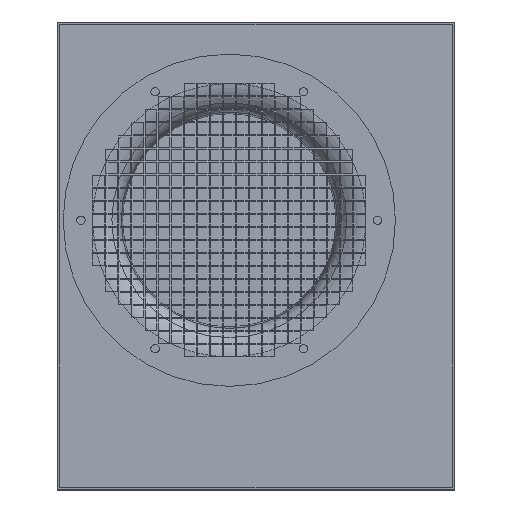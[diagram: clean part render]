
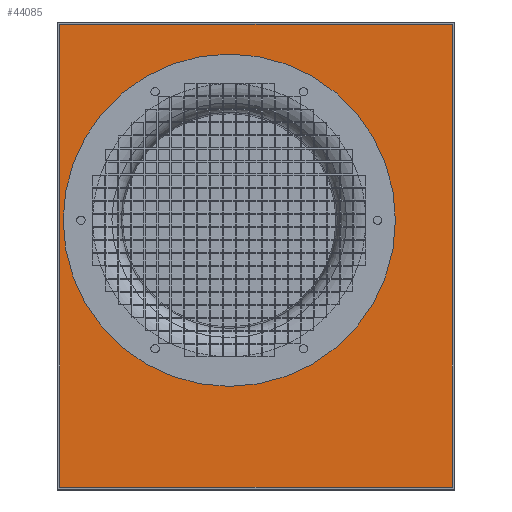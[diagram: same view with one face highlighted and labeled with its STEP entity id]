
A CAD part, top view. The second image highlights one B-rep face of the part: STEP entity #44085.
In plain terms, the highlighted planar face has unit normal (0, 0, 1).
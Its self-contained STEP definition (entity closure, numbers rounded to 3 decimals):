
#722=FACE_BOUND('',#9000,.T.);
#967=CIRCLE('',#45925,140.);
#4230=PLANE('',#46050);
#6263=FACE_OUTER_BOUND('',#8999,.T.);
#8999=EDGE_LOOP('',(#41637,#41638,#41639,#41640));
#9000=EDGE_LOOP('',(#41641));
#14037=LINE('',#76128,#19075);
#14038=LINE('',#76130,#19076);
#14039=LINE('',#76132,#19077);
#14040=LINE('',#76133,#19078);
#19075=VECTOR('',#54974,10.);
#19076=VECTOR('',#54975,10.);
#19077=VECTOR('',#54976,10.);
#19078=VECTOR('',#54977,10.);
#23582=VERTEX_POINT('',#75762);
#23699=VERTEX_POINT('',#76126);
#23700=VERTEX_POINT('',#76127);
#23701=VERTEX_POINT('',#76129);
#23702=VERTEX_POINT('',#76131);
#29506=EDGE_CURVE('',#23582,#23582,#967,.T.);
#29685=EDGE_CURVE('',#23699,#23700,#14037,.T.);
#29686=EDGE_CURVE('',#23700,#23701,#14038,.T.);
#29687=EDGE_CURVE('',#23702,#23701,#14039,.T.);
#29688=EDGE_CURVE('',#23702,#23699,#14040,.T.);
#41637=ORIENTED_EDGE('',*,*,#29685,.T.);
#41638=ORIENTED_EDGE('',*,*,#29686,.T.);
#41639=ORIENTED_EDGE('',*,*,#29687,.F.);
#41640=ORIENTED_EDGE('',*,*,#29688,.T.);
#41641=ORIENTED_EDGE('',*,*,#29506,.T.);
#44085=ADVANCED_FACE('',(#6263,#722),#4230,.T.);
#45925=AXIS2_PLACEMENT_3D('',#75763,#54601,#54602);
#46050=AXIS2_PLACEMENT_3D('',#76125,#54972,#54973);
#54601=DIRECTION('center_axis',(0.,0.,-1.));
#54602=DIRECTION('ref_axis',(-0.866,0.5,0.));
#54972=DIRECTION('center_axis',(0.,0.,1.));
#54973=DIRECTION('ref_axis',(1.,0.,0.));
#54974=DIRECTION('',(0.,1.,0.));
#54975=DIRECTION('',(-1.,0.,0.));
#54976=DIRECTION('',(0.,1.,0.));
#54977=DIRECTION('',(1.,0.,0.));
#75762=CARTESIAN_POINT('',(-311.244,297.,2.));
#75763=CARTESIAN_POINT('Origin',(-190.,227.,2.));
#76125=CARTESIAN_POINT('Origin',(-167.5,197.003,2.));
#76126=CARTESIAN_POINT('',(-2.,2.003,2.));
#76127=CARTESIAN_POINT('',(-2.,392.003,2.));
#76128=CARTESIAN_POINT('',(-2.,98.503,2.));
#76129=CARTESIAN_POINT('',(-333.,392.003,2.));
#76130=CARTESIAN_POINT('',(-85.75,392.003,2.));
#76131=CARTESIAN_POINT('',(-333.,2.003,2.));
#76132=CARTESIAN_POINT('',(-333.,295.503,2.));
#76133=CARTESIAN_POINT('',(-249.25,2.003,2.));
